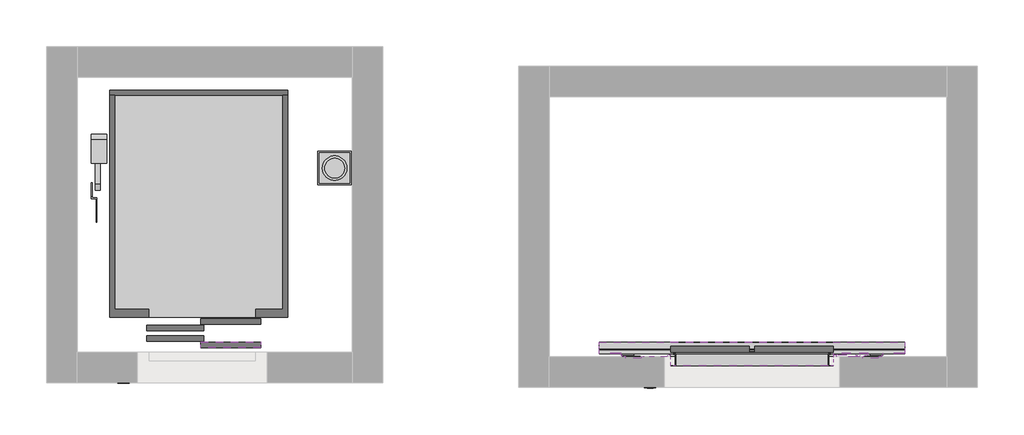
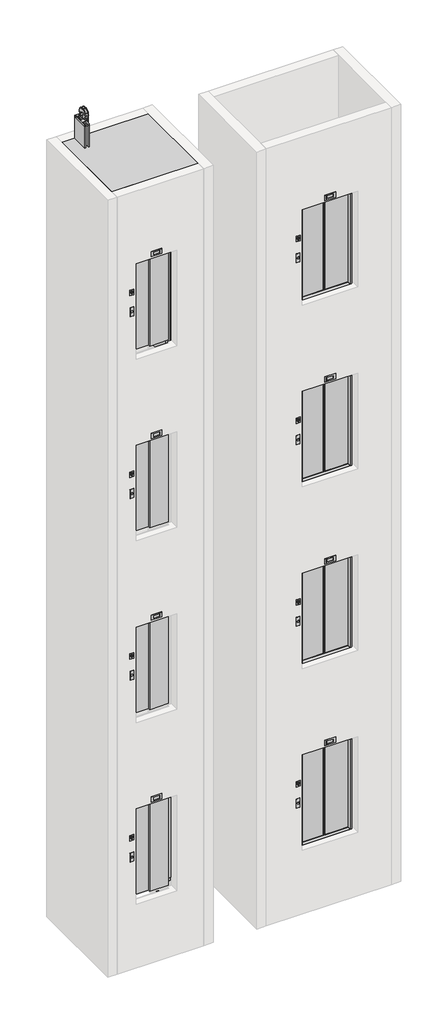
# One storey, part 2 of 2: 11 proxies.
"""IFC4 building model written with IfcOpenShell, lengths in millimetres."""

from ifc_helpers import new_model, si_unit, point, frame, frame_2d, origin, place, context, project, spatial, polyline, circle_curve, ellipse_curve, trimmed, segment, composite_curve, outline, extrude, faceted_brep, transform, mapped, element, save
from ifc_brep_helpers import plane_surface, cylinder_surface, revolved_surface, advanced_brep
from components import generic_models_5d65fb78, generic_models_938a0e69

model = new_model("IFC4")

# Units and contexts
model_context = context("Model", 3, world=origin())
ifc_project = project(units=[si_unit("LENGTHUNIT", "METRE", prefix="MILLI")], contexts=[model_context])

# Site, building, storey
site = spatial("IfcSite", under=ifc_project)
building = spatial("IfcBuilding", under=site)
storey = spatial("IfcBuildingStorey", under=building, Name="Уровень 2", Elevation=4000.0)

# Proxies
placement = place(None, origin())
generic_models_shape = generic_models_5d65fb78(model_context)
element("IfcBuildingElementProxy", 1, Name="SHLZ_Дверь_0621Е_0411 : SHLZ_Дверь_0621Е_0411", ObjectType="SHLZ_Дверь_0621Е_0411 : SHLZ_Дверь_0621Е_0411", at=placement, inside=storey, context=model_context, shape_type="MappedRepresentation", body=[
    mapped(generic_models_shape, transform((-4342.0143835, -3887.209494, 8000.0), x_axis=(1.0, 0.0, 0.0), y_axis=(0.0, 1.0, 0.0), z_axis=(0.0, 0.0, 1.0))),
])
element("IfcBuildingElementProxy", 2, Name="SHLZ_Дверь_0621Е_0411 : SHLZ_Дверь_0621Е_0411", ObjectType="SHLZ_Дверь_0621Е_0411 : SHLZ_Дверь_0621Е_0411", at=placement, inside=storey, context=model_context, shape_type="MappedRepresentation", body=[
    mapped(generic_models_shape, transform((-4342.0143835, -3887.209494, 12000.0), x_axis=(1.0, 0.0, 0.0), y_axis=(0.0, 1.0, 0.0), z_axis=(0.0, 0.0, 1.0))),
])
element("IfcBuildingElementProxy", 3, Name="SHLZ_Дверь_0621Е_0411 : SHLZ_Дверь_0621Е_0411", ObjectType="SHLZ_Дверь_0621Е_0411 : SHLZ_Дверь_0621Е_0411", at=placement, inside=storey, context=model_context, shape_type="MappedRepresentation", body=[
    mapped(generic_models_shape, transform((-4342.0143835, -3887.209494, 16000.0), x_axis=(1.0, 0.0, 0.0), y_axis=(0.0, 1.0, 0.0), z_axis=(0.0, 0.0, 1.0))),
])
element("IfcBuildingElementProxy", 4, Name="SHLZ_Дверь_0621Е_0411 : SHLZ_Дверь_0621Е_0411", ObjectType="SHLZ_Дверь_0621Е_0411 : SHLZ_Дверь_0621Е_0411", at=placement, inside=storey, context=model_context, shape_type="MappedRepresentation", body=[
    mapped(generic_models_shape, transform((-4342.0143835, -3887.209494, 4000.0), x_axis=(1.0, 0.0, 0.0), y_axis=(0.0, 1.0, 0.0), z_axis=(0.0, 0.0, 1.0))),
])
element("IfcBuildingElementProxy", 5, Name="SHLZ_Дверь_0621Е_0411 : SHLZ_Дверь_0621Е_0411", ObjectType="SHLZ_Дверь_0621Е_0411 : SHLZ_Дверь_0621Е_0411", at=placement, inside=storey, context=model_context, shape_type="MappedRepresentation", body=[
    mapped(generic_models_shape, transform((-4342.0143835, -3887.209494, 16000.0), x_axis=(1.0, 0.0, 0.0), y_axis=(0.0, 1.0, 0.0), z_axis=(0.0, 0.0, 1.0))),
])
generic_models_2_shape = generic_models_938a0e69(model_context)
element("IfcBuildingElementProxy", 6, Name="SHLZ_Дверь_0621Е_0411 : SHLZ_Дверь_0621Е_0411", ObjectType="SHLZ_Дверь_0621Е_0411 : SHLZ_Дверь_0621Е_0411", at=placement, inside=storey, context=model_context, shape_type="MappedRepresentation", body=[
    mapped(generic_models_2_shape, transform((-746.5137369, -3917.209494, 8000.0), x_axis=(1.0, 0.0, 0.0), y_axis=(0.0, 1.0, 0.0), z_axis=(0.0, 0.0, 1.0))),
])
element("IfcBuildingElementProxy", 7, Name="SHLZ_Дверь_0621Е_0411 : SHLZ_Дверь_0621Е_0411", ObjectType="SHLZ_Дверь_0621Е_0411 : SHLZ_Дверь_0621Е_0411", at=placement, inside=storey, context=model_context, shape_type="MappedRepresentation", body=[
    mapped(generic_models_2_shape, transform((-746.5137369, -3917.209494, 12000.0), x_axis=(1.0, 0.0, 0.0), y_axis=(0.0, 1.0, 0.0), z_axis=(0.0, 0.0, 1.0))),
])
element("IfcBuildingElementProxy", 8, Name="SHLZ_Дверь_0621Е_0411 : SHLZ_Дверь_0621Е_0411", ObjectType="SHLZ_Дверь_0621Е_0411 : SHLZ_Дверь_0621Е_0411", at=placement, inside=storey, context=model_context, shape_type="MappedRepresentation", body=[
    mapped(generic_models_2_shape, transform((-746.5137369, -3917.209494, 16000.0), x_axis=(1.0, 0.0, 0.0), y_axis=(0.0, 1.0, 0.0), z_axis=(0.0, 0.0, 1.0))),
])
element("IfcBuildingElementProxy", 9, Name="SHLZ_Дверь_0621Е_0411 : SHLZ_Дверь_0621Е_0411", ObjectType="SHLZ_Дверь_0621Е_0411 : SHLZ_Дверь_0621Е_0411", at=placement, inside=storey, context=model_context, shape_type="MappedRepresentation", body=[
    mapped(generic_models_2_shape, transform((-746.5137369, -3917.209494, 4000.0), x_axis=(1.0, 0.0, 0.0), y_axis=(0.0, 1.0, 0.0), z_axis=(0.0, 0.0, 1.0))),
])
element("IfcBuildingElementProxy", 10, Name="SHLZ_Дверь_0621Е_0411 : SHLZ_Дверь_0621Е_0411", ObjectType="SHLZ_Дверь_0621Е_0411 : SHLZ_Дверь_0621Е_0411", at=placement, inside=storey, context=model_context, shape_type="MappedRepresentation", body=[
    mapped(generic_models_2_shape, transform((-746.5137369, -3917.209494, 16000.0), x_axis=(1.0, 0.0, 0.0), y_axis=(0.0, 1.0, 0.0), z_axis=(0.0, 0.0, 1.0))),
])
element("IfcBuildingElementProxy", 11, Name="SHLZ_Шахта основа : A34", ObjectType="SHLZ_Шахта основа : A34", at=placement, inside=storey, context=model_context, shape_type="SolidModel", body=[
    extrude(outline(polyline([(-3362.0143835, -2087.209494), (-3362.0143835, -3887.209494), (-5162.0143835, -3887.209494), (-5162.0143835, -2087.209494), (-3362.0143835, -2087.209494)])), frame((0.0, 0.0, 19699.0), z_axis=(0.0, 0.0, 1.0), x_axis=(1.0, 0.0, 0.0)), (0.0, 0.0, 1.0), 1.0),
    extrude(outline(polyline([(-3567.0143835, -3082.209494), (-3567.0143835, -2282.209494), (-3486.0143835, -2282.209494), (-3486.0143835, -2298.209494), (-3468.0143835, -2298.209494), (-3468.0143835, -2282.209494), (-3387.0143835, -2282.209494), (-3387.0143835, -3082.209494), (-3468.0143835, -3082.209494), (-3468.0143835, -3066.209494), (-3486.0143835, -3066.209494), (-3486.0143835, -3082.209494), (-3567.0143835, -3082.209494)])), frame((0.0, 0.0, 15000.0), z_axis=(0.0, 0.0, 1.0), x_axis=(1.0, 0.0, 0.0)), (0.0, 0.0, 1.0), 3200.0),
    extrude(outline(composite_curve([segment(polyline([(-4367.0143835, -3004.4900247), (-4339.7215728, -2964.0595434)]), True, "CONTINUOUS"), segment(trimmed(circle_curve(frame_2d((-4366.7023662, -2975.297013)), 29.2274517), [point((-4339.7215728, -2964.0595434))], [point((-4367.0143835, -3004.5227992))], False, "CARTESIAN"), True, "CONTINUOUS"), segment(trimmed(circle_curve(frame_2d((-4367.9120128, -2975.5361937)), 29.0005006), [point((-4367.0143835, -3004.5227992))], [point((-4394.4516675, -2963.8453528))], False, "CARTESIAN"), True, "CONTINUOUS"), segment(polyline([(-4394.4516675, -2963.8453528), (-4367.0143835, -3004.4900247)]), True, "CONTINUOUS")], self_intersect=False)), frame((0.0, 0.0, 2600.0), z_axis=(0.0, 0.0, 1.0), x_axis=(1.0, 0.0, 0.0)), (0.0, 0.0, 1.0), 10.0),
    extrude(outline(composite_curve([segment(polyline([(-4367.0143835, -2909.5031077), (-4394.4516675, -2950.1477796)]), True, "CONTINUOUS"), segment(trimmed(circle_curve(frame_2d((-4367.9120128, -2938.4569387)), 29.0005006), [point((-4394.4516675, -2950.1477796))], [point((-4367.0143835, -2909.4703332))], False, "CARTESIAN"), True, "CONTINUOUS"), segment(trimmed(circle_curve(frame_2d((-4366.7023662, -2938.6961194)), 29.2274517), [point((-4367.0143835, -2909.4703332))], [point((-4339.7215728, -2949.933589))], False, "CARTESIAN"), True, "CONTINUOUS"), segment(polyline([(-4339.7215728, -2949.933589), (-4367.0143835, -2909.5031077)]), True, "CONTINUOUS")], self_intersect=False)), frame((0.0, 0.0, 2600.0), z_axis=(0.0, 0.0, 1.0), x_axis=(1.0, 0.0, 0.0)), (0.0, 0.0, 1.0), 10.0),
    extrude(outline(composite_curve([segment(trimmed(circle_curve(frame_2d((-4363.8130864, -2972.3187256)), 25.1781993), [point((-4351.0267391, -2950.6288422))], [point((-4340.1233197, -2963.7901458))], False, "CARTESIAN"), True, "CONTINUOUS"), segment(polyline([(-4340.1233197, -2963.7901458), (-4383.3310895, -2963.7901458)]), True, "CONTINUOUS"), segment(trimmed(circle_curve(frame_2d((-4366.2032715, -2938.5035917)), 30.5413157), [point((-4383.3310895, -2963.7901458))], [point((-4394.2345089, -2950.6288422))], False, "CARTESIAN"), True, "CONTINUOUS"), segment(polyline([(-4394.2345089, -2950.6288422), (-4351.0267391, -2950.6288422)]), True, "CONTINUOUS")], self_intersect=False)), frame((0.0, 0.0, 2600.0), z_axis=(0.0, 0.0, 1.0), x_axis=(1.0, 0.0, 0.0)), (0.0, 0.0, 1.0), 10.0),
    extrude(outline(polyline([(-4477.0143835, -3067.209494), (-4477.0143835, -2847.209494), (-4257.0143835, -2847.209494), (-4257.0143835, -3067.209494), (-4477.0143835, -3067.209494)])), frame((0.0, 0.0, 2600.0), z_axis=(0.0, 0.0, 1.0), x_axis=(1.0, 0.0, 0.0)), (0.0, 0.0, 1.0), 10.0),
    extrude(outline(composite_curve([segment(trimmed(circle_curve(frame_2d((-4367.0143835, -2957.209494)), 70.0), [point((-4437.0143835, -2957.209494))], [point((-4297.0143835, -2957.209494))], False, "CARTESIAN"), True, "CONTINUOUS"), segment(trimmed(circle_curve(frame_2d((-4367.0143835, -2957.209494)), 70.0), [point((-4297.0143835, -2957.209494))], [point((-4437.0143835, -2957.209494))], False, "CARTESIAN"), True, "CONTINUOUS")], self_intersect=False)), frame((0.0, 0.0, 2620.0), z_axis=(0.0, 0.0, 1.0), x_axis=(1.0, 0.0, 0.0)), (0.0, 0.0, 1.0), 630.0),
    extrude(outline(composite_curve([segment(trimmed(circle_curve(frame_2d((-4367.0143835, -2957.209494)), 80.0), [point((-4447.0143835, -2957.209494))], [point((-4287.0143835, -2957.209494))], False, "CARTESIAN"), True, "CONTINUOUS"), segment(trimmed(circle_curve(frame_2d((-4367.0143835, -2957.209494)), 80.0), [point((-4287.0143835, -2957.209494))], [point((-4447.0143835, -2957.209494))], False, "CARTESIAN"), True, "CONTINUOUS")], self_intersect=False)), frame((0.0, 0.0, 3250.0), z_axis=(0.0, 0.0, 1.0), x_axis=(1.0, 0.0, 0.0)), (0.0, 0.0, 1.0), 5.0),
    extrude(outline(composite_curve([segment(trimmed(circle_curve(frame_2d((-4367.0143835, -2957.209494)), 65.0), [point((-4432.0143835, -2957.209494))], [point((-4302.0143835, -2957.209494))], False, "CARTESIAN"), True, "CONTINUOUS"), segment(trimmed(circle_curve(frame_2d((-4367.0143835, -2957.209494)), 65.0), [point((-4302.0143835, -2957.209494))], [point((-4432.0143835, -2957.209494))], False, "CARTESIAN"), True, "CONTINUOUS")], self_intersect=False)), frame((0.0, 0.0, 3255.0), z_axis=(0.0, 0.0, 1.0), x_axis=(1.0, 0.0, 0.0)), (0.0, 0.0, 1.0), 85.0),
    extrude(outline(polyline([(-4267.0143835, -2857.209494), (-4267.0143835, -3057.209494), (-4467.0143835, -3057.209494), (-4467.0143835, -2857.209494), (-4267.0143835, -2857.209494)])), frame((0.0, 0.0, 2610.0), z_axis=(0.0, 0.0, 1.0), x_axis=(1.0, 0.0, 0.0)), (0.0, 0.0, 1.0), 10.0),
    extrude(outline(composite_curve([segment(polyline([(-3477.0143835, -2729.4900247), (-3449.7215728, -2689.0595434)]), True, "CONTINUOUS"), segment(trimmed(circle_curve(frame_2d((-3476.7023662, -2700.297013)), 29.2274517), [point((-3449.7215728, -2689.0595434))], [point((-3477.0143835, -2729.5227992))], False, "CARTESIAN"), True, "CONTINUOUS"), segment(trimmed(circle_curve(frame_2d((-3477.9120128, -2700.5361937)), 29.0005006), [point((-3477.0143835, -2729.5227992))], [point((-3504.4516675, -2688.8453528))], False, "CARTESIAN"), True, "CONTINUOUS"), segment(polyline([(-3504.4516675, -2688.8453528), (-3477.0143835, -2729.4900247)]), True, "CONTINUOUS")], self_intersect=False)), frame((0.0, 0.0, 2600.0), z_axis=(0.0, 0.0, 1.0), x_axis=(1.0, 0.0, 0.0)), (0.0, 0.0, 1.0), 10.0),
    extrude(outline(composite_curve([segment(polyline([(-3477.0143835, -2634.5031077), (-3504.4516675, -2675.1477796)]), True, "CONTINUOUS"), segment(trimmed(circle_curve(frame_2d((-3477.9120128, -2663.4569387)), 29.0005006), [point((-3504.4516675, -2675.1477796))], [point((-3477.0143835, -2634.4703332))], False, "CARTESIAN"), True, "CONTINUOUS"), segment(trimmed(circle_curve(frame_2d((-3476.7023662, -2663.6961194)), 29.2274517), [point((-3477.0143835, -2634.4703332))], [point((-3449.7215728, -2674.933589))], False, "CARTESIAN"), True, "CONTINUOUS"), segment(polyline([(-3449.7215728, -2674.933589), (-3477.0143835, -2634.5031077)]), True, "CONTINUOUS")], self_intersect=False)), frame((0.0, 0.0, 2600.0), z_axis=(0.0, 0.0, 1.0), x_axis=(1.0, 0.0, 0.0)), (0.0, 0.0, 1.0), 10.0),
    extrude(outline(composite_curve([segment(trimmed(circle_curve(frame_2d((-3473.8130864, -2697.3187256)), 25.1781993), [point((-3461.0267391, -2675.6288422))], [point((-3450.1233197, -2688.7901458))], False, "CARTESIAN"), True, "CONTINUOUS"), segment(polyline([(-3450.1233197, -2688.7901458), (-3493.3310895, -2688.7901458)]), True, "CONTINUOUS"), segment(trimmed(circle_curve(frame_2d((-3476.2032715, -2663.5035917)), 30.5413157), [point((-3493.3310895, -2688.7901458))], [point((-3504.2345089, -2675.6288422))], False, "CARTESIAN"), True, "CONTINUOUS"), segment(polyline([(-3504.2345089, -2675.6288422), (-3461.0267391, -2675.6288422)]), True, "CONTINUOUS")], self_intersect=False)), frame((0.0, 0.0, 2600.0), z_axis=(0.0, 0.0, 1.0), x_axis=(1.0, 0.0, 0.0)), (0.0, 0.0, 1.0), 10.0),
    extrude(outline(polyline([(-3587.0143835, -2792.209494), (-3587.0143835, -2572.209494), (-3367.0143835, -2572.209494), (-3367.0143835, -2792.209494), (-3587.0143835, -2792.209494)])), frame((0.0, 0.0, 2600.0), z_axis=(0.0, 0.0, 1.0), x_axis=(1.0, 0.0, 0.0)), (0.0, 0.0, 1.0), 10.0),
    extrude(outline(composite_curve([segment(trimmed(circle_curve(frame_2d((-3477.0143835, -2682.209494)), 70.0), [point((-3547.0143835, -2682.209494))], [point((-3407.0143835, -2682.209494))], False, "CARTESIAN"), True, "CONTINUOUS"), segment(trimmed(circle_curve(frame_2d((-3477.0143835, -2682.209494)), 70.0), [point((-3407.0143835, -2682.209494))], [point((-3547.0143835, -2682.209494))], False, "CARTESIAN"), True, "CONTINUOUS")], self_intersect=False)), frame((0.0, 0.0, 2620.0), z_axis=(0.0, 0.0, 1.0), x_axis=(1.0, 0.0, 0.0)), (0.0, 0.0, 1.0), 240.0),
    extrude(outline(composite_curve([segment(trimmed(circle_curve(frame_2d((-3477.0143835, -2682.209494)), 80.0), [point((-3557.0143835, -2682.209494))], [point((-3397.0143835, -2682.209494))], False, "CARTESIAN"), True, "CONTINUOUS"), segment(trimmed(circle_curve(frame_2d((-3477.0143835, -2682.209494)), 80.0), [point((-3397.0143835, -2682.209494))], [point((-3557.0143835, -2682.209494))], False, "CARTESIAN"), True, "CONTINUOUS")], self_intersect=False)), frame((0.0, 0.0, 2860.0), z_axis=(0.0, 0.0, 1.0), x_axis=(1.0, 0.0, 0.0)), (0.0, 0.0, 1.0), 5.0),
    extrude(outline(composite_curve([segment(trimmed(circle_curve(frame_2d((-3477.0143835, -2682.209494)), 65.0), [point((-3542.0143835, -2682.209494))], [point((-3412.0143835, -2682.209494))], False, "CARTESIAN"), True, "CONTINUOUS"), segment(trimmed(circle_curve(frame_2d((-3477.0143835, -2682.209494)), 65.0), [point((-3412.0143835, -2682.209494))], [point((-3542.0143835, -2682.209494))], False, "CARTESIAN"), True, "CONTINUOUS")], self_intersect=False)), frame((0.0, 0.0, 2865.0), z_axis=(0.0, 0.0, 1.0), x_axis=(1.0, 0.0, 0.0)), (0.0, 0.0, 1.0), 85.0),
    extrude(outline(polyline([(-3377.0143835, -2582.209494), (-3377.0143835, -2782.209494), (-3577.0143835, -2782.209494), (-3577.0143835, -2582.209494), (-3377.0143835, -2582.209494)])), frame((0.0, 0.0, 2610.0), z_axis=(0.0, 0.0, 1.0), x_axis=(1.0, 0.0, 0.0)), (0.0, 0.0, 1.0), 10.0),
    advanced_brep(
    [(-5099.0143835, -2647.209494, 20637.5), (-5099.0143835, -2647.209494, 20662.5), (-5099.0143835, -2647.209494, 20612.5), (-4954.0143835, -2647.209494, 20662.5), (-4954.0143835, -2647.209494, 20637.5), (-4954.0143835, -2647.209494, 20612.5), (-5059.0143835, -2647.209494, 20662.5), (-5059.0143835, -2622.209494, 20637.5), (-5059.0143835, -2647.209494, 20612.5), (-4976.0143835, -2647.209494, 20612.5), (-4976.0143835, -2622.209494, 20637.5), (-4976.0143835, -2647.209494, 20662.5), (-5009.0143835, -2622.209494, 20637.5), (-5009.0143835, -2647.209494, 20662.5), (-5004.0143835, -2647.209494, 20662.5), (-5004.0143835, -2622.209494, 20637.5), (-5004.0143835, -2647.209494, 20612.5), (-5009.0143835, -2647.209494, 20612.5), (-5059.0143835, -2672.209494, 20637.5), (-4976.0143835, -2672.209494, 20637.5), (-5004.0143835, -2672.209494, 20637.5), (-5009.0143835, -2672.209494, 20637.5), (-5049.0143835, -2534.709494, 20637.5), (-5009.0143835, -2534.709494, 20637.5), (-5009.0143835, -2759.709494, 20637.5), (-5049.0143835, -2759.709494, 20637.5), (-5014.0143835, -2724.209494, 20555.4801853), (-5014.0143835, -2570.209494, 20555.4801853), (-5019.0143835, -2570.209494, 20555.4801853), (-5019.0143835, -2724.209494, 20555.4801853), (-5059.0143835, -2749.709494, 20637.5), (-5059.0143835, -2544.709494, 20637.5), (-5014.0143835, -2724.209494, 20500.0), (-5019.0143835, -2724.209494, 20505.0), (-5099.0143835, -2724.209494, 20505.0), (-5099.0143835, -2724.209494, 20500.0), (-5019.0143835, -2570.209494, 20505.0), (-5014.0143835, -2570.209494, 20500.0), (-5099.0143835, -2570.209494, 20500.0), (-5099.0143835, -2570.209494, 20505.0), (-4976.0143835, -2570.209494, 20637.5), (-4976.0143835, -2724.209494, 20637.5), (-4978.9836162, -2724.209494, 20637.5), (-4978.9836162, -2570.209494, 20637.5), (-4979.9989998, -2714.209494, 20637.5), (-4979.9989998, -2580.209494, 20637.5), (-4985.9989998, -2714.209494, 20637.5), (-4985.9989998, -2580.209494, 20637.5), (-4987.0143835, -2724.209494, 20637.5), (-4987.0143835, -2570.209494, 20637.5), (-4990.0143835, -2724.209494, 20637.5), (-4990.0143835, -2570.209494, 20637.5), (-4990.0143835, -2537.209494, 20637.5), (-4990.0143835, -2757.209494, 20637.5), (-4992.9836162, -2757.209494, 20637.5), (-4992.9836162, -2537.209494, 20637.5), (-4993.9989998, -2747.209494, 20637.5), (-4993.9989998, -2547.209494, 20637.5), (-4999.9989998, -2747.209494, 20637.5), (-4999.9989998, -2547.209494, 20637.5), (-5001.0143835, -2757.209494, 20637.5), (-5001.0143835, -2537.209494, 20637.5), (-5004.0143835, -2757.209494, 20637.5), (-5004.0143835, -2537.209494, 20637.5)],
    [
        (0, 1),
        (1, 2, circle_curve(frame((-5099.0143835, -2647.209494, 20637.5), z_axis=(-1.0, 0.0, 0.0), x_axis=(0.0, 0.0, -1.0)), 25.0)),
        (2, 0),
        (2, 1, circle_curve(frame((-5099.0143835, -2647.209494, 20637.5), z_axis=(-1.0, 0.0, 0.0), x_axis=(0.0, 0.0, -1.0)), 25.0)),
        (3, 4),
        (4, 5),
        (5, 3, circle_curve(frame((-4954.0143835, -2647.209494, 20637.5), z_axis=(1.0, 0.0, 0.0), x_axis=(0.0, 0.0, -1.0)), 25.0)),
        (3, 5, circle_curve(frame((-4954.0143835, -2647.209494, 20637.5), z_axis=(1.0, 0.0, 0.0), x_axis=(0.0, 0.0, -1.0)), 25.0)),
        (1, 6),
        (6, 7, circle_curve(frame((-5059.0143835, -2647.209494, 20637.5), z_axis=(-1.0, 0.0, 0.0), x_axis=(0.0, 0.0, -1.0)), 25.0)),
        (7, 8, circle_curve(frame((-5059.0143835, -2647.209494, 20637.5), z_axis=(-1.0, 0.0, 0.0), x_axis=(0.0, 0.0, -1.0)), 25.0)),
        (8, 2),
        (5, 9),
        (9, 10, circle_curve(frame((-4976.0143835, -2647.209494, 20637.5), z_axis=(1.0, 0.0, 0.0), x_axis=(0.0, 0.0, -1.0)), 25.0)),
        (10, 11, circle_curve(frame((-4976.0143835, -2647.209494, 20637.5), z_axis=(1.0, 0.0, 0.0), x_axis=(0.0, 0.0, -1.0)), 25.0)),
        (11, 3),
        (12, 13, circle_curve(frame((-5009.0143835, -2647.209494, 20637.5), z_axis=(1.0, 0.0, 0.0), x_axis=(0.0, 0.0, -1.0)), 25.0)),
        (13, 14),
        (14, 15, circle_curve(frame((-5004.0143835, -2647.209494, 20637.5), z_axis=(-1.0, 0.0, 0.0), x_axis=(0.0, 0.0, -1.0)), 25.0)),
        (15, 16, circle_curve(frame((-5004.0143835, -2647.209494, 20637.5), z_axis=(-1.0, 0.0, 0.0), x_axis=(0.0, 0.0, -1.0)), 25.0)),
        (16, 17),
        (17, 12, circle_curve(frame((-5009.0143835, -2647.209494, 20637.5), z_axis=(1.0, 0.0, 0.0), x_axis=(0.0, 0.0, -1.0)), 25.0)),
        (8, 18, circle_curve(frame((-5059.0143835, -2647.209494, 20637.5), z_axis=(-1.0, 0.0, 0.0), x_axis=(0.0, 0.0, -1.0)), 25.0)),
        (18, 6, circle_curve(frame((-5059.0143835, -2647.209494, 20637.5), z_axis=(-1.0, 0.0, 0.0), x_axis=(0.0, 0.0, -1.0)), 25.0)),
        (11, 19, circle_curve(frame((-4976.0143835, -2647.209494, 20637.5), z_axis=(1.0, 0.0, 0.0), x_axis=(0.0, 0.0, -1.0)), 25.0)),
        (19, 9, circle_curve(frame((-4976.0143835, -2647.209494, 20637.5), z_axis=(1.0, 0.0, 0.0), x_axis=(0.0, 0.0, -1.0)), 25.0)),
        (16, 20, circle_curve(frame((-5004.0143835, -2647.209494, 20637.5), z_axis=(-1.0, 0.0, 0.0), x_axis=(0.0, 0.0, -1.0)), 25.0)),
        (20, 14, circle_curve(frame((-5004.0143835, -2647.209494, 20637.5), z_axis=(-1.0, 0.0, 0.0), x_axis=(0.0, 0.0, -1.0)), 25.0)),
        (13, 21, circle_curve(frame((-5009.0143835, -2647.209494, 20637.5), z_axis=(1.0, 0.0, 0.0), x_axis=(0.0, 0.0, -1.0)), 25.0)),
        (21, 17, circle_curve(frame((-5009.0143835, -2647.209494, 20637.5), z_axis=(1.0, 0.0, 0.0), x_axis=(0.0, 0.0, -1.0)), 25.0)),
        (22, 23),
        (23, 24, circle_curve(frame((-5009.0143835, -2647.209494, 20637.5), z_axis=(-1.0, 0.0, 0.0), x_axis=(0.0, -1.0, 0.0)), 112.5)),
        (24, 25),
        (25, 22, circle_curve(frame((-5049.0143835, -2647.209494, 20637.5), z_axis=(1.0, 0.0, 0.0), x_axis=(0.0, -1.0, 0.0)), 112.5)),
        (26, 27, circle_curve(frame((-5014.0143835, -2647.209494, 20637.5), z_axis=(1.0, 0.0, 0.0), x_axis=(0.0, -1.0, 0.0)), 112.5)),
        (27, 28),
        (28, 29, circle_curve(frame((-5019.0143835, -2647.209494, 20637.5), z_axis=(-1.0, 0.0, 0.0), x_axis=(0.0, -1.0, 0.0)), 112.5)),
        (29, 26),
        (24, 23, circle_curve(frame((-5009.0143835, -2647.209494, 20637.5), z_axis=(-1.0, 0.0, 0.0), x_axis=(0.0, -1.0, 0.0)), 112.5)),
        (22, 25, circle_curve(frame((-5049.0143835, -2647.209494, 20637.5), z_axis=(1.0, 0.0, 0.0), x_axis=(0.0, -1.0, 0.0)), 112.5)),
        (25, 30, circle_curve(frame((-5049.0143835, -2749.709494, 20637.5), z_axis=(0.0, 0.0, -1.0), x_axis=(-1.0, 0.0, 0.0)), 10.0)),
        (30, 31, circle_curve(frame((-5059.0143835, -2647.209494, 20637.5), z_axis=(1.0, 0.0, 0.0), x_axis=(0.0, -1.0, 0.0)), 102.5)),
        (31, 22, circle_curve(frame((-5049.0143835, -2544.709494, 20637.5), z_axis=(0.0, 0.0, -1.0), x_axis=(-1.0, 0.0, 0.0)), 10.0)),
        (31, 30, circle_curve(frame((-5059.0143835, -2647.209494, 20637.5), z_axis=(1.0, 0.0, 0.0), x_axis=(0.0, -1.0, 0.0)), 102.5)),
        (30, 18),
        (7, 31),
        (23, 12),
        (21, 24),
        (32, 26),
        (29, 33),
        (33, 34),
        (34, 35),
        (35, 32),
        (36, 28),
        (27, 37),
        (37, 38),
        (38, 39),
        (39, 36),
        (32, 37),
        (35, 38),
        (34, 39),
        (33, 36),
        (40, 10),
        (19, 41),
        (41, 40, circle_curve(frame((-4976.0143835, -2647.209494, 20637.5), z_axis=(1.0, 0.0, 0.0), x_axis=(0.0, -1.0, 0.0)), 77.0)),
        (40, 41, circle_curve(frame((-4976.0143835, -2647.209494, 20637.5), z_axis=(1.0, 0.0, 0.0), x_axis=(0.0, -1.0, 0.0)), 77.0)),
        (41, 42),
        (42, 43, circle_curve(frame((-4978.9836162, -2647.209494, 20637.5), z_axis=(1.0, 0.0, 0.0), x_axis=(0.0, -1.0, 0.0)), 77.0)),
        (43, 40),
        (43, 42, circle_curve(frame((-4978.9836162, -2647.209494, 20637.5), z_axis=(1.0, 0.0, 0.0), x_axis=(0.0, -1.0, 0.0)), 77.0)),
        (42, 44),
        (44, 45, circle_curve(frame((-4979.9989998, -2647.209494, 20637.5), z_axis=(1.0, 0.0, 0.0), x_axis=(0.0, -1.0, 0.0)), 67.0)),
        (45, 43),
        (45, 44, circle_curve(frame((-4979.9989998, -2647.209494, 20637.5), z_axis=(1.0, 0.0, 0.0), x_axis=(0.0, -1.0, 0.0)), 67.0)),
        (44, 46),
        (46, 47, circle_curve(frame((-4985.9989998, -2647.209494, 20637.5), z_axis=(1.0, 0.0, 0.0), x_axis=(0.0, -1.0, 0.0)), 67.0)),
        (47, 45),
        (47, 46, circle_curve(frame((-4985.9989998, -2647.209494, 20637.5), z_axis=(1.0, 0.0, 0.0), x_axis=(0.0, -1.0, 0.0)), 67.0)),
        (46, 48),
        (48, 49, circle_curve(frame((-4987.0143835, -2647.209494, 20637.5), z_axis=(1.0, 0.0, 0.0), x_axis=(0.0, -1.0, 0.0)), 77.0)),
        (49, 47),
        (49, 48, circle_curve(frame((-4987.0143835, -2647.209494, 20637.5), z_axis=(1.0, 0.0, 0.0), x_axis=(0.0, -1.0, 0.0)), 77.0)),
        (48, 50),
        (50, 51, circle_curve(frame((-4990.0143835, -2647.209494, 20637.5), z_axis=(1.0, 0.0, 0.0), x_axis=(0.0, -1.0, 0.0)), 77.0)),
        (51, 49),
        (51, 50, circle_curve(frame((-4990.0143835, -2647.209494, 20637.5), z_axis=(1.0, 0.0, 0.0), x_axis=(0.0, -1.0, 0.0)), 77.0)),
        (52, 51),
        (50, 53),
        (53, 52, circle_curve(frame((-4990.0143835, -2647.209494, 20637.5), z_axis=(1.0, 0.0, 0.0), x_axis=(0.0, -1.0, 0.0)), 110.0)),
        (52, 53, circle_curve(frame((-4990.0143835, -2647.209494, 20637.5), z_axis=(1.0, 0.0, 0.0), x_axis=(0.0, -1.0, 0.0)), 110.0)),
        (53, 54),
        (54, 55, circle_curve(frame((-4992.9836162, -2647.209494, 20637.5), z_axis=(1.0, 0.0, 0.0), x_axis=(0.0, -1.0, 0.0)), 110.0)),
        (55, 52),
        (55, 54, circle_curve(frame((-4992.9836162, -2647.209494, 20637.5), z_axis=(1.0, 0.0, 0.0), x_axis=(0.0, -1.0, 0.0)), 110.0)),
        (54, 56),
        (56, 57, circle_curve(frame((-4993.9989998, -2647.209494, 20637.5), z_axis=(1.0, 0.0, 0.0), x_axis=(0.0, -1.0, 0.0)), 100.0)),
        (57, 55),
        (57, 56, circle_curve(frame((-4993.9989998, -2647.209494, 20637.5), z_axis=(1.0, 0.0, 0.0), x_axis=(0.0, -1.0, 0.0)), 100.0)),
        (56, 58),
        (58, 59, circle_curve(frame((-4999.9989998, -2647.209494, 20637.5), z_axis=(1.0, 0.0, 0.0), x_axis=(0.0, -1.0, 0.0)), 100.0)),
        (59, 57),
        (59, 58, circle_curve(frame((-4999.9989998, -2647.209494, 20637.5), z_axis=(1.0, 0.0, 0.0), x_axis=(0.0, -1.0, 0.0)), 100.0)),
        (58, 60),
        (60, 61, circle_curve(frame((-5001.0143835, -2647.209494, 20637.5), z_axis=(1.0, 0.0, 0.0), x_axis=(0.0, -1.0, 0.0)), 110.0)),
        (61, 59),
        (61, 60, circle_curve(frame((-5001.0143835, -2647.209494, 20637.5), z_axis=(1.0, 0.0, 0.0), x_axis=(0.0, -1.0, 0.0)), 110.0)),
        (60, 62),
        (62, 63, circle_curve(frame((-5004.0143835, -2647.209494, 20637.5), z_axis=(1.0, 0.0, 0.0), x_axis=(0.0, -1.0, 0.0)), 110.0)),
        (63, 61),
        (63, 62, circle_curve(frame((-5004.0143835, -2647.209494, 20637.5), z_axis=(1.0, 0.0, 0.0), x_axis=(0.0, -1.0, 0.0)), 110.0)),
        (62, 20),
        (15, 63),
    ],
    [
        plane_surface(frame((-5099.0143835, -2647.209494, 20637.5), z_axis=(-1.0, 0.0, 0.0), x_axis=(0.0, 0.0, -1.0))),
        plane_surface(frame((-4954.0143835, -2647.209494, 20637.5), z_axis=(1.0, 0.0, 0.0), x_axis=(0.0, 0.0, -1.0))),
        cylinder_surface(frame((-4954.0143835, -2647.209494, 20637.5), z_axis=(-1.0, 0.0, 0.0), x_axis=(0.0, 0.0, -1.0)), 25.0),
        cylinder_surface(frame((-5009.0143835, -2647.209494, 20637.5), z_axis=(-1.0, 0.0, 0.0), x_axis=(0.0, -1.0, 0.0)), 112.5),
        revolved_surface(trimmed(ellipse_curve(frame((-5049.0143835, -2749.709494, 20637.5), z_axis=(0.0, 0.0, -1.0), x_axis=(-1.0, 0.0, 0.0)), 10.0, 10.0), [point((-5049.0143835, -2759.709494, 20637.5))], [point((-5059.0143835, -2749.709494, 20637.5))], True, "CARTESIAN"), (-5009.0143835, -2647.209494, 20637.5), (-1.0, 0.0, 0.0)),
        plane_surface(frame((-5059.0143835, -2647.209494, 20637.5), z_axis=(-1.0, 0.0, 0.0), x_axis=(0.0, -1.0, 0.0))),
        plane_surface(frame((-5009.0143835, -2647.209494, 20637.5), z_axis=(1.0, 0.0, 0.0), x_axis=(0.0, -1.0, 0.0))),
        plane_surface(frame((-5014.0143835, -2724.209494, 20561.0), z_axis=(0.0, -1.0, 0.0), x_axis=(1.0, 0.0, 0.0))),
        plane_surface(frame((-5014.0143835, -2570.209494, 20561.0), z_axis=(0.0, 1.0, 0.0), x_axis=(-1.0, 0.0, 0.0))),
        plane_surface(frame((-5014.0143835, -2724.209494, 20561.0), z_axis=(1.0, 0.0, 0.0), x_axis=(0.0, 1.0, 0.0))),
        plane_surface(frame((-5014.0143835, -2724.209494, 20500.0), z_axis=(0.0, 0.0, -1.0), x_axis=(0.0, 1.0, 0.0))),
        plane_surface(frame((-5099.0143835, -2724.209494, 20500.0), z_axis=(-1.0, 0.0, 0.0), x_axis=(0.0, 1.0, 0.0))),
        plane_surface(frame((-5099.0143835, -2724.209494, 20505.0), z_axis=(0.0, 0.0, 1.0), x_axis=(0.0, 1.0, 0.0))),
        plane_surface(frame((-5019.0143835, -2724.209494, 20505.0), z_axis=(-1.0, 0.0, 0.0), x_axis=(0.0, 1.0, 0.0))),
        plane_surface(frame((-4976.0143835, -2647.209494, 20637.5), z_axis=(1.0, 0.0, 0.0), x_axis=(0.0, -1.0, 0.0))),
        cylinder_surface(frame((-4990.0143835, -2647.209494, 20637.5), z_axis=(-1.0, 0.0, 0.0), x_axis=(0.0, -1.0, 0.0)), 77.0),
        revolved_surface(polyline([(-4978.9836162, -2724.209494, 20637.5), (-4979.9989998, -2714.209494, 20637.5)]), (-4990.0143835, -2647.209494, 20637.5), (-1.0, 0.0, 0.0)),
        cylinder_surface(frame((-4990.0143835, -2647.209494, 20637.5), z_axis=(-1.0, 0.0, 0.0), x_axis=(0.0, -1.0, 0.0)), 67.0),
        revolved_surface(polyline([(-4985.9989998, -2714.209494, 20637.5), (-4987.0143835, -2724.209494, 20637.5)]), (-4990.0143835, -2647.209494, 20637.5), (-1.0, 0.0, 0.0)),
        plane_surface(frame((-4990.0143835, -2647.209494, 20637.5), z_axis=(1.0, 0.0, 0.0), x_axis=(0.0, -1.0, 0.0))),
        cylinder_surface(frame((-5004.0143835, -2647.209494, 20637.5), z_axis=(-1.0, 0.0, 0.0), x_axis=(0.0, -1.0, 0.0)), 110.0),
        revolved_surface(polyline([(-4992.9836162, -2757.209494, 20637.5), (-4993.9989998, -2747.209494, 20637.5)]), (-5004.0143835, -2647.209494, 20637.5), (-1.0, 0.0, 0.0)),
        cylinder_surface(frame((-5004.0143835, -2647.209494, 20637.5), z_axis=(-1.0, 0.0, 0.0), x_axis=(0.0, -1.0, 0.0)), 100.0),
        revolved_surface(polyline([(-4999.9989998, -2747.209494, 20637.5), (-5001.0143835, -2757.209494, 20637.5)]), (-5004.0143835, -2647.209494, 20637.5), (-1.0, 0.0, 0.0)),
        plane_surface(frame((-5004.0143835, -2647.209494, 20637.5), z_axis=(-1.0, 0.0, 0.0), x_axis=(0.0, -1.0, 0.0))),
    ],
    [
        (0, [[1, 2, 3]]),
        (0, [[4, -1, -3]]),
        (1, [[5, 6, 7]]),
        (1, [[-5, 8, -6]]),
        (2, [[9, 10, 11, 12, -2]]),
        (2, [[13, 14, 15, 16, -7]]),
        (2, [[17, 18, 19, 20, 21, 22]]),
        (2, [[-12, 23, 24, -9, -4]]),
        (2, [[-16, 25, 26, -13, -8]]),
        (2, [[-21, 27, 28, -18, 29, 30]]),
        (3, [[31, 32, 33, 34], [35, 36, 37, 38]]),
        (3, [[39, -31, 40, -33]]),
        (4, [[41, 42, 43, -34]]),
        (4, [[-43, 44, -41, -40]]),
        (5, [[45, -23, -11, 46, -42]]),
        (5, [[-46, -10, -24, -45, -44]]),
        (6, [[47, -22, -30, 48, -32]]),
        (6, [[-48, -29, -17, -47, -39]]),
        (7, [[49, -38, 50, 51, 52, 53]]),
        (8, [[54, -36, 55, 56, 57, 58]]),
        (9, [[-55, -35, -49, 59]]),
        (10, [[60, -56, -59, -53]]),
        (11, [[61, -57, -60, -52]]),
        (12, [[62, -58, -61, -51]]),
        (13, [[-50, -37, -54, -62]]),
        (14, [[63, -14, -26, 64, 65]]),
        (14, [[-64, -25, -15, -63, 66]]),
        (15, [[67, 68, 69, -65]]),
        (15, [[-69, 70, -67, -66]]),
        (16, [[71, 72, 73, -68]]),
        (16, [[-73, 74, -71, -70]]),
        (17, [[75, 76, 77, -72]]),
        (17, [[-77, 78, -75, -74]]),
        (18, [[79, 80, 81, -76]]),
        (18, [[-81, 82, -79, -78]]),
        (15, [[83, 84, 85, -80]]),
        (15, [[-85, 86, -83, -82]]),
        (19, [[87, -84, 88, 89]]),
        (19, [[-88, -86, -87, 90]]),
        (20, [[91, 92, 93, -89]]),
        (20, [[-93, 94, -91, -90]]),
        (21, [[95, 96, 97, -92]]),
        (21, [[-97, 98, -95, -94]]),
        (22, [[99, 100, 101, -96]]),
        (22, [[-101, 102, -99, -98]]),
        (23, [[103, 104, 105, -100]]),
        (23, [[-105, 106, -103, -102]]),
        (20, [[107, 108, 109, -104]]),
        (20, [[-109, 110, -107, -106]]),
        (24, [[111, -27, -20, 112, -108]]),
        (24, [[-112, -19, -28, -111, -110]]),
    ],
),
    extrude(outline(polyline([(20505.0, -5059.0143835), (20637.5, -5059.0143835), (20637.5, -5071.1926448), (20631.0124241, -5071.1926448), (20510.0, -5099.0143835), (20505.0, -5099.0143835), (20505.0, -5059.0143835)])), frame((0.0, -2657.209494, 0.0), z_axis=(0.0, 1.0, 0.0), x_axis=(0.0, 0.0, 1.0)), (0.0, 0.0, 1.0), 20.0),
    advanced_brep(
    [(-5001.0143835, -2537.209494, 20000.0), (-4992.9836162, -2537.209494, 20000.0), (-4992.9836162, -2537.209494, 20637.5), (-5001.0143835, -2537.209494, 20637.5), (-4992.9836162, -2757.209494, 20637.5), (-5001.0143835, -2757.209494, 20637.5), (-5001.0143835, -2757.209494, 20000.0), (-4992.9836162, -2757.209494, 20000.0)],
    [
        (0, 1, circle_curve(frame((-4996.9989998, -2537.209494, 20000.0), z_axis=(0.0, 0.0, -1.0), x_axis=(1.0, 0.0, 0.0)), 4.0153836)),
        (1, 0, circle_curve(frame((-4996.9989998, -2537.209494, 20000.0), z_axis=(0.0, 0.0, -1.0), x_axis=(1.0, 0.0, 0.0)), 4.0153836)),
        (1, 2),
        (2, 3, circle_curve(frame((-4996.9989998, -2537.209494, 20637.5), z_axis=(0.0, 0.0, -1.0), x_axis=(1.0, 0.0, 0.0)), 4.0153836)),
        (3, 0),
        (3, 2, circle_curve(frame((-4996.9989998, -2537.209494, 20637.5), z_axis=(0.0, 0.0, -1.0), x_axis=(1.0, 0.0, 0.0)), 4.0153836)),
        (4, 5, circle_curve(frame((-4996.9989998, -2757.209494, 20637.5), z_axis=(0.0, 0.0, 1.0), x_axis=(1.0, 0.0, 0.0)), 4.0153836)),
        (5, 3, circle_curve(frame((-5001.0143835, -2647.209494, 20637.5), z_axis=(-1.0, 0.0, 0.0), x_axis=(0.0, 1.0, 0.0)), 110.0)),
        (2, 4, circle_curve(frame((-4992.9836162, -2647.209494, 20637.5), z_axis=(1.0, 0.0, 0.0), x_axis=(0.0, 1.0, 0.0)), 110.0)),
        (5, 4, circle_curve(frame((-4996.9989998, -2757.209494, 20637.5), z_axis=(0.0, 0.0, 1.0), x_axis=(1.0, 0.0, 0.0)), 4.0153836)),
        (6, 7, circle_curve(frame((-4996.9989998, -2757.209494, 20000.0), z_axis=(0.0, 0.0, -1.0), x_axis=(1.0, 0.0, 0.0)), 4.0153836)),
        (7, 6, circle_curve(frame((-4996.9989998, -2757.209494, 20000.0), z_axis=(0.0, 0.0, -1.0), x_axis=(1.0, 0.0, 0.0)), 4.0153836)),
        (4, 7),
        (6, 5),
    ],
    [
        plane_surface(frame((-5034.0143835, -2537.209494, 20000.0), z_axis=(0.0, 0.0, -1.0), x_axis=(-1.0, 0.0, 0.0))),
        cylinder_surface(frame((-4996.9989998, -2537.209494, 20000.0), z_axis=(0.0, 0.0, -1.0), x_axis=(1.0, 0.0, 0.0)), 4.0153836),
        revolved_surface(trimmed(ellipse_curve(frame((-4996.9989998, -2537.209494, 20637.5), z_axis=(0.0, 0.0, 1.0), x_axis=(1.0, 0.0, 0.0)), 4.0153836, 4.0153836), [point((-5001.0143835, -2537.209494, 20637.5))], [point((-4992.9836162, -2537.209494, 20637.5))], True, "CARTESIAN"), (-5034.0143835, -2647.209494, 20637.5), (-1.0, 0.0, 0.0)),
        revolved_surface(trimmed(ellipse_curve(frame((-4996.9989998, -2537.209494, 20637.5), z_axis=(0.0, 0.0, 1.0), x_axis=(1.0, 0.0, 0.0)), 4.0153836, 4.0153836), [point((-4992.9836162, -2537.209494, 20637.5))], [point((-5001.0143835, -2537.209494, 20637.5))], True, "CARTESIAN"), (-5034.0143835, -2647.209494, 20637.5), (-1.0, 0.0, 0.0)),
        plane_surface(frame((-5034.0143835, -2757.209494, 20000.0), z_axis=(0.0, 0.0, -1.0), x_axis=(-1.0, 0.0, 0.0))),
        cylinder_surface(frame((-4996.9989998, -2757.209494, 20637.5), z_axis=(0.0, 0.0, 1.0), x_axis=(1.0, 0.0, 0.0)), 4.0153836),
    ],
    [
        (0, [[1, 2]]),
        (1, [[3, 4, 5, -2]]),
        (1, [[-5, 6, -3, -1]]),
        (2, [[7, 8, -4, 9]]),
        (3, [[10, -9, -6, -8]]),
        (4, [[11, 12]]),
        (5, [[13, -11, 14, -7]]),
        (5, [[-14, -12, -13, -10]]),
    ],
),
    advanced_brep(
    [(-4987.0143835, -2570.209494, 20000.0), (-4978.9836162, -2570.209494, 20000.0), (-4978.9836162, -2570.209494, 20637.5), (-4987.0143835, -2570.209494, 20637.5), (-4978.9836162, -2724.209494, 20637.5), (-4987.0143835, -2724.209494, 20637.5), (-4987.0143835, -2724.209494, 20000.0), (-4978.9836162, -2724.209494, 20000.0)],
    [
        (0, 1, circle_curve(frame((-4982.9989998, -2570.209494, 20000.0), z_axis=(0.0, 0.0, -1.0), x_axis=(1.0, 0.0, 0.0)), 4.0153836)),
        (1, 0, circle_curve(frame((-4982.9989998, -2570.209494, 20000.0), z_axis=(0.0, 0.0, -1.0), x_axis=(1.0, 0.0, 0.0)), 4.0153836)),
        (1, 2),
        (2, 3, circle_curve(frame((-4982.9989998, -2570.209494, 20637.5), z_axis=(0.0, 0.0, -1.0), x_axis=(1.0, 0.0, 0.0)), 4.0153836)),
        (3, 0),
        (3, 2, circle_curve(frame((-4982.9989998, -2570.209494, 20637.5), z_axis=(0.0, 0.0, -1.0), x_axis=(1.0, 0.0, 0.0)), 4.0153836)),
        (4, 5, circle_curve(frame((-4982.9989998, -2724.209494, 20637.5), z_axis=(0.0, 0.0, 1.0), x_axis=(1.0, 0.0, 0.0)), 4.0153836)),
        (5, 3, circle_curve(frame((-4987.0143835, -2647.209494, 20637.5), z_axis=(-1.0, 0.0, 0.0), x_axis=(0.0, 1.0, 0.0)), 77.0)),
        (2, 4, circle_curve(frame((-4978.9836162, -2647.209494, 20637.5), z_axis=(1.0, 0.0, 0.0), x_axis=(0.0, 1.0, 0.0)), 77.0)),
        (5, 4, circle_curve(frame((-4982.9989998, -2724.209494, 20637.5), z_axis=(0.0, 0.0, 1.0), x_axis=(1.0, 0.0, 0.0)), 4.0153836)),
        (6, 7, circle_curve(frame((-4982.9989998, -2724.209494, 20000.0), z_axis=(0.0, 0.0, -1.0), x_axis=(1.0, 0.0, 0.0)), 4.0153836)),
        (7, 6, circle_curve(frame((-4982.9989998, -2724.209494, 20000.0), z_axis=(0.0, 0.0, -1.0), x_axis=(1.0, 0.0, 0.0)), 4.0153836)),
        (4, 7),
        (6, 5),
    ],
    [
        plane_surface(frame((-5034.0143835, -2570.209494, 20000.0), z_axis=(0.0, 0.0, -1.0), x_axis=(-1.0, 0.0, 0.0))),
        cylinder_surface(frame((-4982.9989998, -2570.209494, 20000.0), z_axis=(0.0, 0.0, -1.0), x_axis=(1.0, 0.0, 0.0)), 4.0153836),
        revolved_surface(trimmed(ellipse_curve(frame((-4982.9989998, -2570.209494, 20637.5), z_axis=(0.0, 0.0, 1.0), x_axis=(1.0, 0.0, 0.0)), 4.0153836, 4.0153836), [point((-4987.0143835, -2570.209494, 20637.5))], [point((-4978.9836162, -2570.209494, 20637.5))], True, "CARTESIAN"), (-5034.0143835, -2647.209494, 20637.5), (-1.0, 0.0, 0.0)),
        revolved_surface(trimmed(ellipse_curve(frame((-4982.9989998, -2570.209494, 20637.5), z_axis=(0.0, 0.0, 1.0), x_axis=(1.0, 0.0, 0.0)), 4.0153836, 4.0153836), [point((-4978.9836162, -2570.209494, 20637.5))], [point((-4987.0143835, -2570.209494, 20637.5))], True, "CARTESIAN"), (-5034.0143835, -2647.209494, 20637.5), (-1.0, 0.0, 0.0)),
        plane_surface(frame((-5034.0143835, -2724.209494, 20000.0), z_axis=(0.0, 0.0, -1.0), x_axis=(-1.0, 0.0, 0.0))),
        cylinder_surface(frame((-4982.9989998, -2724.209494, 20637.5), z_axis=(0.0, 0.0, 1.0), x_axis=(1.0, 0.0, 0.0)), 4.0153836),
    ],
    [
        (0, [[1, 2]]),
        (1, [[3, 4, 5, -2]]),
        (1, [[-5, 6, -3, -1]]),
        (2, [[7, 8, -4, 9]]),
        (3, [[10, -9, -6, -8]]),
        (4, [[11, 12]]),
        (5, [[13, -11, 14, -7]]),
        (5, [[-14, -12, -13, -10]]),
    ],
),
    extrude(outline(polyline([(-5034.0143835, -2827.209494), (-5034.0143835, -2467.209494), (-5014.0143835, -2467.209494), (-5014.0143835, -2827.209494), (-5034.0143835, -2827.209494)])), frame((0.0, 0.0, 20470.0), z_axis=(0.0, 0.0, 1.0), x_axis=(1.0, 0.0, 0.0)), (0.0, 0.0, 1.0), 30.0),
    extrude(outline(polyline([(-5109.0143835, -2827.209494), (-5109.0143835, -2467.209494), (-5089.0143835, -2467.209494), (-5089.0143835, -2827.209494), (-5109.0143835, -2827.209494)])), frame((0.0, 0.0, 20470.0), z_axis=(0.0, 0.0, 1.0), x_axis=(1.0, 0.0, 0.0)), (0.0, 0.0, 1.0), 30.0),
    extrude(outline(polyline([(-5109.0143835, -2827.209494), (-5109.0143835, -2787.209494), (-5014.0143835, -2787.209494), (-5014.0143835, -2827.209494), (-5109.0143835, -2827.209494)])), frame((0.0, 0.0, 20470.0), z_axis=(0.0, 0.0, 1.0), x_axis=(1.0, 0.0, 0.0)), (0.0, 0.0, 1.0), 30.0),
    extrude(outline(polyline([(-5109.0143835, -2507.209494), (-5109.0143835, -2467.209494), (-5014.0143835, -2467.209494), (-5014.0143835, -2507.209494), (-5109.0143835, -2507.209494)])), frame((0.0, 0.0, 20470.0), z_axis=(0.0, 0.0, 1.0), x_axis=(1.0, 0.0, 0.0)), (0.0, 0.0, 1.0), 30.0),
    extrude(outline(polyline([(-5109.0143835, -2467.209494), (-5089.0143835, -2467.209494), (-5089.0143835, -2827.209494), (-5109.0143835, -2827.209494), (-5109.0143835, -2467.209494)])), frame((0.0, 0.0, 20000.0), z_axis=(0.0, 0.0, 1.0), x_axis=(1.0, 0.0, 0.0)), (0.0, 0.0, 1.0), 500.0),
    extrude(outline(polyline([(-5034.0143835, -2467.209494), (-5014.0143835, -2467.209494), (-5014.0143835, -2827.209494), (-5034.0143835, -2827.209494), (-5034.0143835, -2467.209494)])), frame((0.0, 0.0, 20000.0), z_axis=(0.0, 0.0, 1.0), x_axis=(1.0, 0.0, 0.0)), (0.0, 0.0, 1.0), 500.0),
    faceted_brep([(-5034.0143835, -3037.209494, 3100.0), (-5034.0143835, -2877.209494, 3100.0), (-5064.0143835, -2877.209494, 3100.0), (-5064.0143835, -2869.209494, 3100.0), (-5068.0143835, -2869.209494, 3100.0), (-5068.0143835, -2881.209494, 3100.0), (-5038.0143835, -2881.209494, 3100.0), (-5038.0143835, -3037.209494, 3100.0), (-5034.0143835, -3037.209494, 2900.0), (-5038.0143835, -3037.209494, 2900.0), (-5038.0143835, -2881.209494, 2900.0), (-5068.0143835, -2881.209494, 2900.0), (-5068.0143835, -2869.209494, 2900.0), (-5064.0143835, -2869.209494, 2900.0), (-5064.0143835, -2877.209494, 2900.0), (-5034.0143835, -2877.209494, 2900.0), (-5068.0143835, -2777.209494, 3042.0), (-5068.0143835, -2777.209494, 2958.0), (-5064.0143835, -2777.209494, 3042.0), (-5064.0143835, -2777.209494, 2958.0)], [[[0, 1, 2, 3, 4, 5, 6, 7]], [[8, 9, 10, 11, 12, 13, 14, 15]], [[7, 9, 8, 0]], [[6, 10, 9, 7]], [[5, 11, 10, 6]], [[5, 4, 16, 17, 12, 11]], [[16, 18, 19, 17]], [[14, 13, 19, 18, 3, 2]], [[1, 15, 14, 2]], [[0, 8, 15, 1]], [[12, 17, 19, 13]], [[3, 18, 16, 4]]]),
    extrude(outline(polyline([(-2651.209494, 2882.0), (-2783.209494, 2882.0), (-2827.209494, 2958.0), (-2827.209494, 3042.0), (-2783.209494, 3118.0), (-2651.209494, 3118.0), (-2651.209494, 2882.0)])), frame((-5044.0143835, 0.0, 0.0), z_axis=(1.0, 0.0, 0.0), x_axis=(0.0, 1.0, 0.0)), (0.0, 0.0, 1.0), 32.0),
    extrude(outline(composite_curve([segment(trimmed(circle_curve(frame_2d((-2815.0515993, 3000.0)), 355.8421053), [point((-2497.209494, 3160.0))], [point((-2497.209494, 2840.0))], False, "CARTESIAN"), True, "CONTINUOUS"), segment(polyline([(-2497.209494, 2840.0), (-2651.209494, 2840.0), (-2651.209494, 3160.0), (-2497.209494, 3160.0)]), True, "CONTINUOUS")], self_intersect=False)), frame((-5068.0143835, 0.0, 0.0), z_axis=(1.0, 0.0, 0.0), x_axis=(0.0, 1.0, 0.0)), (0.0, 0.0, 1.0), 100.0),
    extrude(outline(polyline([(-3719.0143835, -2782.209494), (-3719.0143835, -2852.209494), (-5015.0143835, -2852.209494), (-5015.0143835, -2782.209494), (-3719.0143835, -2782.209494)])), frame((0.0, 0.0, 6713.6), z_axis=(0.0, 0.0, 1.0), x_axis=(1.0, 0.0, 0.0)), (0.0, 0.0, 1.0), 180.0),
    extrude(outline(polyline([(-3719.0143835, -3132.209494), (-5015.0143835, -3132.209494), (-5015.0143835, -3062.209494), (-3719.0143835, -3062.209494), (-3719.0143835, -3132.209494)])), frame((0.0, 0.0, 6713.6), z_axis=(0.0, 0.0, 1.0), x_axis=(1.0, 0.0, 0.0)), (0.0, 0.0, 1.0), 180.0),
    faceted_brep([(-4917.0143835, -2207.209494, 6001.0), (-4917.0143835, -2207.209494, 4001.0), (-4949.5143835, -2207.209494, 4001.0), (-4949.5143835, -2207.209494, 6001.0), (-4949.5143835, -2174.209494, 4001.0), (-4949.5143835, -2174.209494, 3995.0), (-4949.5143835, -3657.209494, 3995.0), (-4949.5143835, -3657.209494, 6301.0), (-4949.5143835, -2174.209494, 6301.0), (-4949.5143835, -2174.209494, 6001.0), (-3784.5143835, -3657.209494, 3995.0), (-3784.5143835, -3657.209494, 6301.0), (-4692.0143835, -3657.209494, 4001.0), (-4692.0143835, -3657.209494, 6001.0), (-3992.0143835, -3657.209494, 6001.0), (-3992.0143835, -3657.209494, 4001.0), (-4692.0143835, -3607.209494, 4001.0), (-4692.0143835, -3607.209494, 6001.0), (-4917.0143835, -3607.209494, 4001.0), (-4917.0143835, -3607.209494, 6196.0), (-3817.0143835, -3607.209494, 6196.0), (-3817.0143835, -3607.209494, 4001.0), (-3992.0143835, -3607.209494, 4001.0), (-3992.0143835, -3607.209494, 6001.0), (-4917.0143835, -2207.209494, 6196.0), (-3817.0143835, -2207.209494, 6001.0), (-3817.0143835, -2207.209494, 4001.0), (-3817.0143835, -2207.209494, 6196.0), (-3784.5143835, -2207.209494, 4001.0), (-3784.5143835, -2207.209494, 6001.0), (-3784.5143835, -2174.209494, 6001.0), (-3784.5143835, -2174.209494, 6301.0), (-3784.5143835, -2174.209494, 3995.0), (-3784.5143835, -2174.209494, 4001.0)], [[[0, 1, 2, 3]], [[3, 2, 4, 5, 6, 7, 8, 9]], [[7, 6, 10, 11], [12, 13, 14, 15]], [[13, 12, 16, 17]], [[17, 16, 18, 19, 20, 21, 22, 23]], [[1, 0, 24, 19, 18]], [[25, 26, 21, 20, 27]], [[23, 22, 15, 14]], [[28, 29, 30, 31, 11, 10, 32, 33]], [[26, 25, 29, 28]], [[31, 8, 7, 11]], [[17, 23, 14, 13]], [[9, 30, 29, 25, 0, 3]], [[8, 31, 30, 9]], [[0, 25, 27, 24]], [[20, 19, 24, 27]], [[33, 4, 2, 1, 18, 16, 12, 15, 22, 21, 26, 28]], [[32, 10, 6, 5]], [[4, 33, 32, 5]]]),
    extrude(outline(polyline([(-3784.5143835, -2174.209494), (-3784.5143835, -2207.209494), (-4949.5143835, -2207.209494), (-4949.5143835, -2174.209494), (-3784.5143835, -2174.209494)])), frame((0.0, 0.0, 3995.0), z_axis=(0.0, 0.0, 1.0), x_axis=(1.0, 0.0, 0.0)), (0.0, 0.0, 1.0), 2306.0),
    extrude(outline(polyline([(-3813.0143835, -2202.209494), (-3813.0143835, -3657.209494), (-4921.0143835, -3657.209494), (-4921.0143835, -2202.209494), (-3813.0143835, -2202.209494)])), frame((0.0, 0.0, 3935.0), z_axis=(0.0, 0.0, 1.0), x_axis=(1.0, 0.0, 0.0)), (0.0, 0.0, 1.0), 60.0),
    extrude(outline(polyline([(-3975.0143835, -2360.209494), (-3784.5143835, -2360.209494), (-3784.5143835, -3585.209494), (-3975.0143835, -3585.209494), (-3975.0143835, -2360.209494)])), frame((0.0, 0.0, 3867.6), z_axis=(0.0, 0.0, 1.0), x_axis=(1.0, 0.0, 0.0)), (0.0, 0.0, 1.0), 67.4),
    extrude(outline(polyline([(-4949.5143835, -2360.209494), (-4759.0143835, -2360.209494), (-4759.0143835, -3585.209494), (-4949.5143835, -3585.209494), (-4949.5143835, -2360.209494)])), frame((0.0, 0.0, 3867.6), z_axis=(0.0, 0.0, 1.0), x_axis=(1.0, 0.0, 0.0)), (0.0, 0.0, 1.0), 67.4),
    extrude(outline(polyline([(-4707.6230791, -3711.209494), (-4332.0143835, -3711.209494), (-4332.0143835, -3747.209494), (-4707.6230791, -3747.209494), (-4707.6230791, -3711.209494)])), frame((0.0, 0.0, 4005.5191152), z_axis=(0.0, 0.0, 1.0), x_axis=(1.0, 0.0, 0.0)), (0.0, 0.0, 1.0), 2155.0),
    extrude(outline(polyline([(-3962.0143835, -3669.509494), (-3962.0143835, -3705.509494), (-4352.0143835, -3705.509494), (-4352.0143835, -3669.509494), (-3962.0143835, -3669.509494)])), frame((0.0, 0.0, 4005.5191152), z_axis=(0.0, 0.0, 1.0), x_axis=(1.0, 0.0, 0.0)), (0.0, 0.0, 1.0), 2155.0),
])

save(model, "model.ifc")
